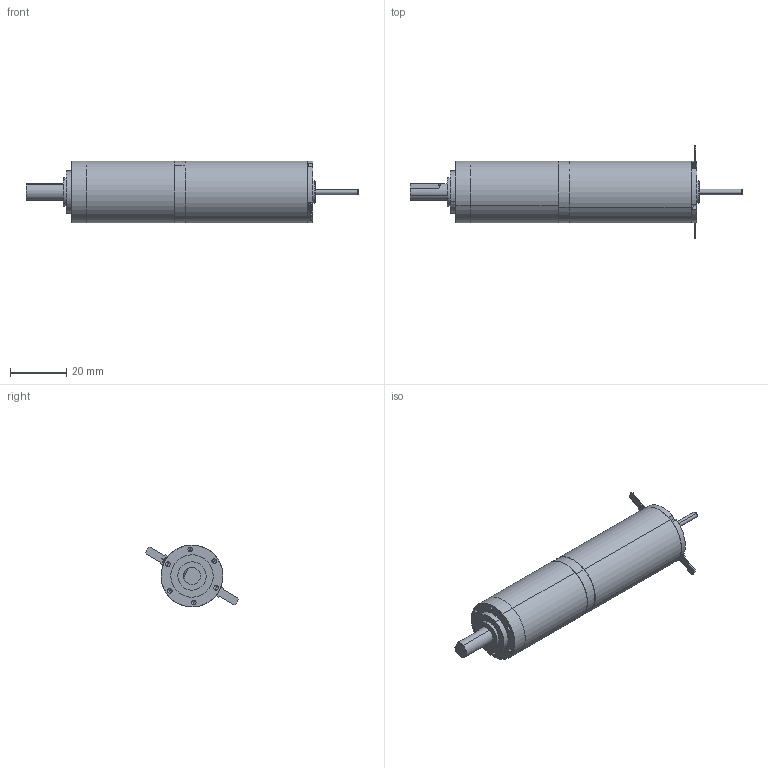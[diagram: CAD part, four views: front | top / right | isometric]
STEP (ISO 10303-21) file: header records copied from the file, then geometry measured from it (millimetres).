
FILE_DESCRIPTION (( 'STEP AP214' ), '1' );
FILE_NAME ('DCX22LG + GP22HP-3 étages.STEP', '2014-10-13T15:08:46', ( '' ), ( '' ), 'SwSTEP 2.0', 'SolidWorks 2013', '' );
FILE_SCHEMA (( 'AUTOMOTIVE_DESIGN' ));
Length unit declared in the file: millimetre
Products named in the file (18): 4; 6; 3; 1228536; 2; 1; GP22HP_3-STUFIG-370776; DCX22LG + GP22HP-3 étages; DCX22LG; 5; 14; 13; 12; 11; 10; 9; 8; 7
Assembly tree (17 placements, depth 3):
  DCX22LG + GP22HP-3 étages
    GP22HP_3-STUFIG-370776
    DCX22LG
      1
      2
      3
      4
      5
      1228536
      6
      7
      8
      9
      10
      11
      12
      13
      14
Bounding box: 117.85 x 32.86 x 22 mm (x, y, z)
Volume: 30945.5 mm3; surface area: 13204.5 mm2
Topology: 16 solids, 16 shells, 856 faces, 2047 edges, 1268 vertices
Faces by surface type: cylinder 320, plane 261, cone 192, bspline 83
Entity records: 37831 total; most frequent: CARTESIAN_POINT 8045, DIRECTION 4452, ORIENTED_EDGE 4066, EDGE_CURVE 2033, AXIS2_PLACEMENT_3D 1722, VERTEX_POINT 1268, LINE 1008, VECTOR 1008
